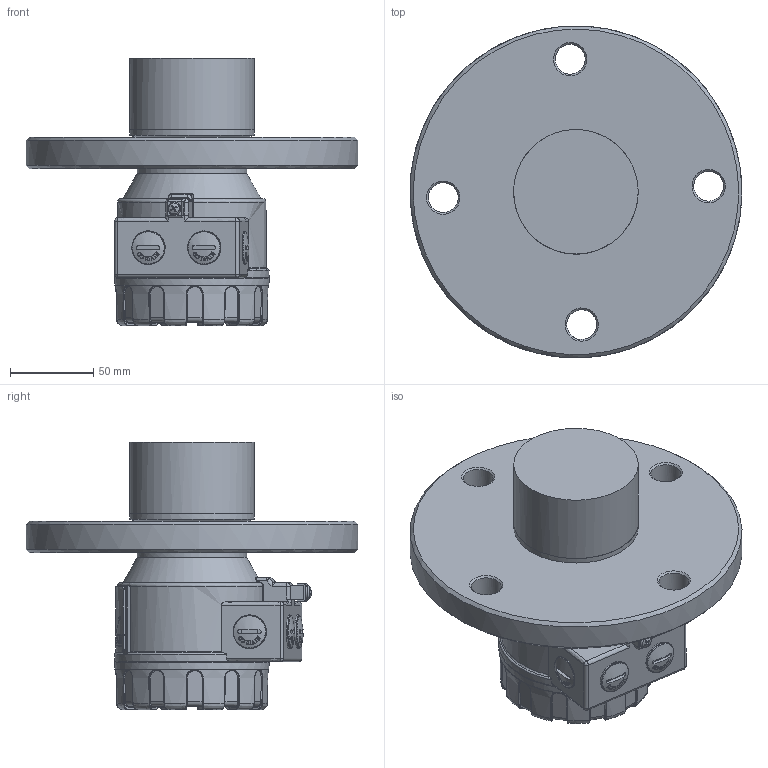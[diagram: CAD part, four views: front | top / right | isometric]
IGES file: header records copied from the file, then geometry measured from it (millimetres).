
Global section: file name: SI_360_Műház,2; native system: 2HAutodesk Inventor 2015; preprocessor: unknown; author: aantal; date: 20150306.113110; units: millimetre
Bounding box: 199.91 x 199.91 x 161.1 mm (x, y, z)
Volume: 1480614.4 mm3; surface area: 181008.6 mm2
Topology: 13 solids, 13 shells, 1259 faces, 3124 edges, 1926 vertices
Faces by surface type: bspline 1259
